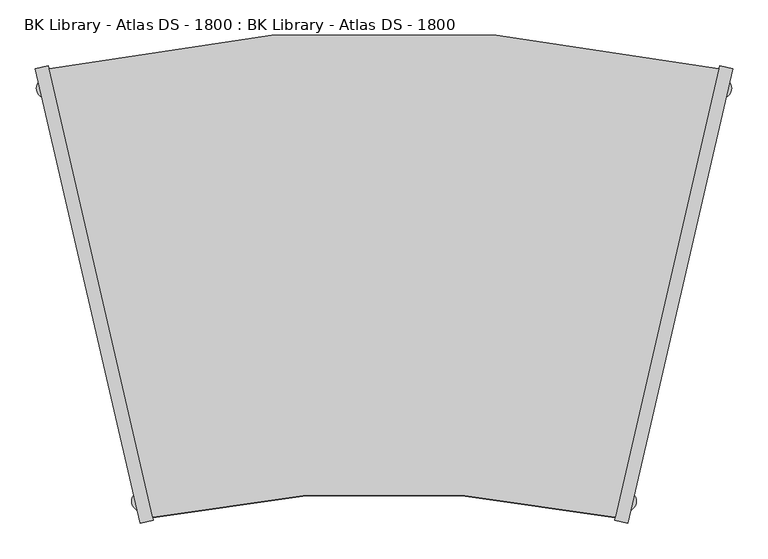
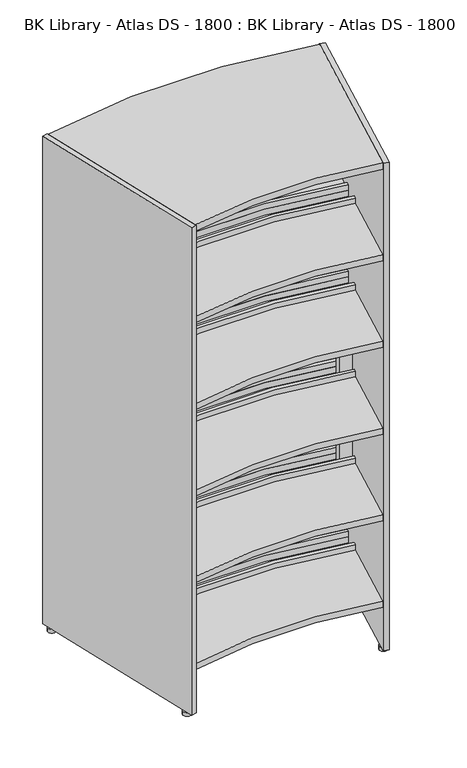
"""IFC4 building model written with IfcOpenShell, lengths in millimetres: furniture geometry, BK Library - Atlas DS - 1800 : BK Library - Atlas DS - 1800."""

from ifc_helpers import new_model, si_unit, point, frame, frame_2d, origin, origin_with_axes, place, context, project, spatial, polyline, circle_curve, trimmed, segment, composite_curve, outline, extrude, source, transform, mapped, element, save
from ifc_brep_helpers import plane_surface, cylinder_surface, revolved_surface, advanced_brep


def bk_library_atlas_ds_1800_bk_library_atlas_ds_1800_9343d491(model_context):
    return source(origin(), model_context, "Body", "SolidModel", [
        advanced_brep(
        [(-403.1922937, 9.7442892, 1106.1999998), (-398.6983746, -9.7442892, 1106.1999998), (398.6983746, -9.7442892, 1106.1999998), (403.1922937, 9.7442892, 1106.1999998), (-403.1922937, 9.7442892, 391.1999998), (403.1922937, 9.7442892, 391.1999998), (398.6983746, -9.7442892, 391.1999998), (-398.6983746, -9.7442892, 391.1999998), (359.7000463, -1.6061954, 1066.1999998), (359.7000463, -1.6061954, 768.6999998), (-359.7212176, -1.6103769, 768.6999998), (-359.7212176, -1.6103769, 1066.1999998), (-359.7212176, -1.6103769, 728.6999998), (359.7000463, -1.6061954, 728.6999998), (359.7000463, -1.6061954, 431.1999998), (-359.7212176, -1.6103769, 431.1999998), (359.7000463, 18.8192746, 768.6999998), (359.7000463, 18.8192746, 1066.1999998), (-359.7212176, 18.8151191, 1066.1999998), (-359.7212176, 18.8151191, 768.6999998), (359.7000463, 18.8192746, 728.6999998), (-359.7212176, 18.8151191, 728.6999998), (-359.7212176, 18.8151191, 431.1999998), (359.7000463, 18.8192746, 431.1999998)],
        [
            (0, 1),
            (1, 2, circle_curve(frame((0.0, -1822.824997, 1106.1999998), z_axis=(0.0, 0.0, -1.0), x_axis=(1.0, 0.0, 0.0)), 1856.4002927)),
            (2, 3),
            (3, 0, circle_curve(frame((0.0, -1813.8149651, 1106.1999998), z_axis=(0.0, 0.0, 1.0), x_axis=(1.0, 0.0, 0.0)), 1867.6007014)),
            (4, 5, circle_curve(frame((0.0, -1813.8149651, 391.1999998), z_axis=(0.0, 0.0, -1.0), x_axis=(1.0, 0.0, 0.0)), 1867.6007014)),
            (5, 6),
            (6, 7, circle_curve(frame((0.0, -1822.824997, 391.1999998), z_axis=(0.0, 0.0, 1.0), x_axis=(1.0, 0.0, 0.0)), 1856.4002927)),
            (7, 4),
            (0, 4),
            (7, 1),
            (2, 6),
            (5, 3),
            (8, 9),
            (9, 10, circle_curve(frame((0.0, -1822.824997, 768.6999998), z_axis=(0.0, 0.0, 1.0), x_axis=(1.0, 0.0, 0.0)), 1856.4002927)),
            (10, 11),
            (11, 8, circle_curve(frame((0.0, -1822.824997, 1066.1999998), z_axis=(0.0, 0.0, -1.0), x_axis=(1.0, 0.0, 0.0)), 1856.4002927)),
            (12, 13, circle_curve(frame((0.0, -1822.824997, 728.6999998), z_axis=(0.0, 0.0, -1.0), x_axis=(1.0, 0.0, 0.0)), 1856.4002927)),
            (13, 14),
            (14, 15, circle_curve(frame((0.0, -1822.824997, 431.1999998), z_axis=(0.0, 0.0, 1.0), x_axis=(1.0, 0.0, 0.0)), 1856.4002927)),
            (15, 12),
            (16, 17),
            (17, 18, circle_curve(frame((0.0, -1813.8149651, 1066.1999998), z_axis=(0.0, 0.0, 1.0), x_axis=(1.0, 0.0, 0.0)), 1867.6007014)),
            (18, 19),
            (19, 16, circle_curve(frame((0.0, -1813.8149651, 768.6999998), z_axis=(0.0, 0.0, -1.0), x_axis=(1.0, 0.0, 0.0)), 1867.6007014)),
            (20, 21, circle_curve(frame((0.0, -1813.8149651, 728.6999998), z_axis=(0.0, 0.0, 1.0), x_axis=(1.0, 0.0, 0.0)), 1867.6007014)),
            (21, 22),
            (22, 23, circle_curve(frame((0.0, -1813.8149651, 431.1999998), z_axis=(0.0, 0.0, -1.0), x_axis=(1.0, 0.0, 0.0)), 1867.6007014)),
            (23, 20),
            (16, 9),
            (8, 17),
            (11, 18),
            (10, 19),
            (20, 13),
            (12, 21),
            (15, 22),
            (14, 23),
        ],
        [
            plane_surface(frame((-326.7956683, -321.5615447, 1106.1999998), z_axis=(0.0, 0.0, 1.0), x_axis=(0.224695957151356, -0.9744289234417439, 0.0))),
            plane_surface(frame((-326.7956683, -321.5615447, 391.1999998), z_axis=(0.0, 0.0, -1.0), x_axis=(-0.224695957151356, 0.9744289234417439, 0.0))),
            plane_surface(frame((-403.1922937, 9.7442892, 1106.1999998), z_axis=(-0.9744289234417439, -0.224695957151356, 0.0), x_axis=(0.0, 0.0, -1.0))),
            plane_surface(frame((398.6983746, -9.7442892, 1106.1999998), z_axis=(0.974428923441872, -0.22469595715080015, 0.0), x_axis=(0.0, 0.0, -1.0))),
            revolved_surface(polyline([(1856.4002927, -1822.824997, 391.1999998), (1856.4002927, -1822.824997, 1106.1999998)]), (0.0, -1822.824997, 391.1999998), (0.0, 0.0, -1.0)),
            cylinder_surface(frame((0.0, -1813.8149651, 391.1999998), z_axis=(0.0, 0.0, 1.0), x_axis=(1.0, 0.0, 0.0)), 1867.6007014),
            plane_surface(frame((359.7000463, -114.4923923, 768.6999998), z_axis=(-1.0, 0.0, 0.0), x_axis=(0.0, 1.0, 0.0))),
            plane_surface(frame((359.7000463, -114.4923923, 1066.1999998), z_axis=(0.0, 0.0, -1.0), x_axis=(0.0, 1.0, 0.0))),
            plane_surface(frame((-359.7212176, -114.4923923, 1066.1999998), z_axis=(1.0, 0.0, 0.0), x_axis=(0.0, 1.0, 0.0))),
            plane_surface(frame((-359.7212176, -114.4923923, 768.6999998), z_axis=(0.0, 0.0, 1.0), x_axis=(0.0, 1.0, 0.0))),
            plane_surface(frame((359.7000463, -114.4923923, 728.6999998), z_axis=(0.0, 0.0, -1.0), x_axis=(0.0, 1.0, 0.0))),
            plane_surface(frame((-359.7212176, -114.4923923, 728.6999998), z_axis=(1.0, 0.0, 0.0), x_axis=(0.0, 1.0, 0.0))),
            plane_surface(frame((-359.7212176, -114.4923923, 431.1999998), z_axis=(0.0, 0.0, 1.0), x_axis=(0.0, 1.0, 0.0))),
            plane_surface(frame((359.7000463, -114.4923923, 431.1999998), z_axis=(-1.0, 0.0, 0.0), x_axis=(0.0, 1.0, 0.0))),
        ],
        [
            (0, [[1, 2, 3, 4]]),
            (1, [[5, 6, 7, 8]]),
            (2, [[-1, 9, -8, 10]]),
            (3, [[-3, 11, -6, 12]]),
            (4, [[-2, -10, -7, -11], [13, 14, 15, 16], [17, 18, 19, 20]]),
            (5, [[-4, -12, -5, -9], [21, 22, 23, 24], [25, 26, 27, 28]]),
            (6, [[29, -13, 30, -21]]),
            (7, [[-30, -16, 31, -22]]),
            (8, [[-31, -15, 32, -23]]),
            (9, [[-29, -24, -32, -14]]),
            (10, [[33, -17, 34, -25]]),
            (11, [[-34, -20, 35, -26]]),
            (12, [[-35, -19, 36, -27]]),
            (13, [[-33, -28, -36, -18]]),
        ],
    ),
        extrude(outline(composite_curve([segment(trimmed(circle_curve(frame_2d((0.0, -1840.4430404)), 1557.6392973), [point((327.6944521, -317.663829))], [point((-327.6944521, -317.663829))], True, "CARTESIAN"), True, "CONTINUOUS"), segment(polyline([(-327.6944521, -317.663829), (-394.2058088, -29.2269986)]), True, "CONTINUOUS"), segment(trimmed(circle_curve(frame_2d((0.0, -1785.1487517)), 1799.627579), [point((-394.2058088, -29.2269986))], [point((394.2058088, -29.2269986))], False, "CARTESIAN"), True, "CONTINUOUS"), segment(polyline([(394.2058088, -29.2269986), (327.6944521, -317.663829)]), True, "CONTINUOUS")], self_intersect=False)), frame((0.0, 0.0, 171.6999998), z_axis=(0.0, 0.0, 1.0), x_axis=(1.0, 0.0, 0.0)), (0.0, 0.0, 1.0), 22.0),
        extrude(outline(composite_curve([segment(trimmed(circle_curve(frame_2d((0.0, -1777.8812307)), 2148.52767), [point((-474.1962162, 317.663829))], [point((474.1962162, 317.663829))], False, "CARTESIAN"), True, "CONTINUOUS"), segment(polyline([(474.1962162, 317.663829), (407.6853202, 29.2289965)]), True, "CONTINUOUS"), segment(trimmed(circle_curve(frame_2d((0.0, -1798.2835703)), 1872.4341116), [point((407.6853202, 29.2289965))], [point((-407.6853202, 29.2289965))], True, "CARTESIAN"), True, "CONTINUOUS"), segment(polyline([(-407.6853202, 29.2289965), (-474.1962162, 317.663829)]), True, "CONTINUOUS")], self_intersect=False)), frame((0.0, 0.0, 171.6999998), z_axis=(0.0, 0.0, 1.0), x_axis=(1.0, 0.0, 0.0)), (0.0, 0.0, 1.0), 22.0),
        extrude(outline(composite_curve([segment(trimmed(circle_curve(frame_2d((0.0, -1840.4430404)), 1557.6392973), [point((327.6944521, -317.663829))], [point((-327.6944521, -317.663829))], True, "CARTESIAN"), True, "CONTINUOUS"), segment(polyline([(-327.6944521, -317.663829), (-394.2058088, -29.2269986)]), True, "CONTINUOUS"), segment(trimmed(circle_curve(frame_2d((0.0, -1785.1487517)), 1799.627579), [point((-394.2058088, -29.2269986))], [point((394.2058088, -29.2269986))], False, "CARTESIAN"), True, "CONTINUOUS"), segment(polyline([(394.2058088, -29.2269986), (327.6944521, -317.663829)]), True, "CONTINUOUS")], self_intersect=False)), frame((0.0, 0.0, 491.6999998), z_axis=(0.0, 0.0, 1.0), x_axis=(1.0, 0.0, 0.0)), (0.0, 0.0, 1.0), 22.0),
        extrude(outline(composite_curve([segment(trimmed(circle_curve(frame_2d((0.0, -1777.8812307)), 2148.52767), [point((-474.1962162, 317.663829))], [point((474.1962162, 317.663829))], False, "CARTESIAN"), True, "CONTINUOUS"), segment(polyline([(474.1962162, 317.663829), (407.6853202, 29.2289965)]), True, "CONTINUOUS"), segment(trimmed(circle_curve(frame_2d((0.0, -1798.2835703)), 1872.4341116), [point((407.6853202, 29.2289965))], [point((-407.6853202, 29.2289965))], True, "CARTESIAN"), True, "CONTINUOUS"), segment(polyline([(-407.6853202, 29.2289965), (-474.1962162, 317.663829)]), True, "CONTINUOUS")], self_intersect=False)), frame((0.0, 0.0, 491.6999998), z_axis=(0.0, 0.0, 1.0), x_axis=(1.0, 0.0, 0.0)), (0.0, 0.0, 1.0), 22.0),
        extrude(outline(composite_curve([segment(trimmed(circle_curve(frame_2d((0.0, -1840.4430404)), 1557.6392973), [point((327.6944521, -317.663829))], [point((-327.6944521, -317.663829))], True, "CARTESIAN"), True, "CONTINUOUS"), segment(polyline([(-327.6944521, -317.663829), (-394.2058088, -29.2269986)]), True, "CONTINUOUS"), segment(trimmed(circle_curve(frame_2d((0.0, -1785.1487517)), 1799.627579), [point((-394.2058088, -29.2269986))], [point((394.2058088, -29.2269986))], False, "CARTESIAN"), True, "CONTINUOUS"), segment(polyline([(394.2058088, -29.2269986), (327.6944521, -317.663829)]), True, "CONTINUOUS")], self_intersect=False)), frame((0.0, 0.0, 811.6999998), z_axis=(0.0, 0.0, 1.0), x_axis=(1.0, 0.0, 0.0)), (0.0, 0.0, 1.0), 22.0),
        extrude(outline(composite_curve([segment(trimmed(circle_curve(frame_2d((0.0, -1777.8812307)), 2148.52767), [point((-474.1962162, 317.663829))], [point((474.1962162, 317.663829))], False, "CARTESIAN"), True, "CONTINUOUS"), segment(polyline([(474.1962162, 317.663829), (407.6853202, 29.2289965)]), True, "CONTINUOUS"), segment(trimmed(circle_curve(frame_2d((0.0, -1798.2835703)), 1872.4341116), [point((407.6853202, 29.2289965))], [point((-407.6853202, 29.2289965))], True, "CARTESIAN"), True, "CONTINUOUS"), segment(polyline([(-407.6853202, 29.2289965), (-474.1962162, 317.663829)]), True, "CONTINUOUS")], self_intersect=False)), frame((0.0, 0.0, 811.6999998), z_axis=(0.0, 0.0, 1.0), x_axis=(1.0, 0.0, 0.0)), (0.0, 0.0, 1.0), 22.0),
        extrude(outline(composite_curve([segment(trimmed(circle_curve(frame_2d((0.0, -1840.4430404)), 1557.6392973), [point((327.6944521, -317.663829))], [point((-327.6944521, -317.663829))], True, "CARTESIAN"), True, "CONTINUOUS"), segment(polyline([(-327.6944521, -317.663829), (-394.2058088, -29.2269986)]), True, "CONTINUOUS"), segment(trimmed(circle_curve(frame_2d((0.0, -1785.1487517)), 1799.627579), [point((-394.2058088, -29.2269986))], [point((394.2058088, -29.2269986))], False, "CARTESIAN"), True, "CONTINUOUS"), segment(polyline([(394.2058088, -29.2269986), (327.6944521, -317.663829)]), True, "CONTINUOUS")], self_intersect=False)), frame((0.0, 0.0, 1131.6999998), z_axis=(0.0, 0.0, 1.0), x_axis=(1.0, 0.0, 0.0)), (0.0, 0.0, 1.0), 22.0),
        extrude(outline(composite_curve([segment(trimmed(circle_curve(frame_2d((0.0, -1777.8812307)), 2148.52767), [point((-474.1962162, 317.663829))], [point((474.1962162, 317.663829))], False, "CARTESIAN"), True, "CONTINUOUS"), segment(polyline([(474.1962162, 317.663829), (407.6853202, 29.2289965)]), True, "CONTINUOUS"), segment(trimmed(circle_curve(frame_2d((0.0, -1798.2835703)), 1872.4341116), [point((407.6853202, 29.2289965))], [point((-407.6853202, 29.2289965))], True, "CARTESIAN"), True, "CONTINUOUS"), segment(polyline([(-407.6853202, 29.2289965), (-474.1962162, 317.663829)]), True, "CONTINUOUS")], self_intersect=False)), frame((0.0, 0.0, 1131.6999998), z_axis=(0.0, 0.0, 1.0), x_axis=(1.0, 0.0, 0.0)), (0.0, 0.0, 1.0), 22.0),
        extrude(outline(composite_curve([segment(trimmed(circle_curve(frame_2d((0.0, -1840.4430404)), 1557.6392973), [point((327.6944521, -317.663829))], [point((-327.6944521, -317.663829))], True, "CARTESIAN"), True, "CONTINUOUS"), segment(polyline([(-327.6944521, -317.663829), (-394.2058088, -29.2269986)]), True, "CONTINUOUS"), segment(trimmed(circle_curve(frame_2d((0.0, -1785.1487517)), 1799.627579), [point((-394.2058088, -29.2269986))], [point((394.2058088, -29.2269986))], False, "CARTESIAN"), True, "CONTINUOUS"), segment(polyline([(394.2058088, -29.2269986), (327.6944521, -317.663829)]), True, "CONTINUOUS")], self_intersect=False)), frame((0.0, 0.0, 1451.6999998), z_axis=(0.0, 0.0, 1.0), x_axis=(1.0, 0.0, 0.0)), (0.0, 0.0, 1.0), 22.0),
        extrude(outline(composite_curve([segment(trimmed(circle_curve(frame_2d((0.0, -1777.8812307)), 2148.52767), [point((-474.1962162, 317.663829))], [point((474.1962162, 317.663829))], False, "CARTESIAN"), True, "CONTINUOUS"), segment(polyline([(474.1962162, 317.663829), (407.6853202, 29.2289965)]), True, "CONTINUOUS"), segment(trimmed(circle_curve(frame_2d((0.0, -1798.2835703)), 1872.4341116), [point((407.6853202, 29.2289965))], [point((-407.6853202, 29.2289965))], True, "CARTESIAN"), True, "CONTINUOUS"), segment(polyline([(-407.6853202, 29.2289965), (-474.1962162, 317.663829)]), True, "CONTINUOUS")], self_intersect=False)), frame((0.0, 0.0, 1451.6999998), z_axis=(0.0, 0.0, 1.0), x_axis=(1.0, 0.0, 0.0)), (0.0, 0.0, 1.0), 22.0),
        extrude(outline(composite_curve([segment(trimmed(circle_curve(frame_2d((0.0, -1785.1487517)), 1799.627579), [point((-394.2058088, -29.2269986))], [point((394.2058088, -29.2269986))], False, "CARTESIAN"), True, "CONTINUOUS"), segment(polyline([(394.2058088, -29.2269986), (391.2848087, -41.8943694)]), True, "CONTINUOUS"), segment(trimmed(circle_curve(frame_2d((0.0, -1790.5831955)), 1791.9309172), [point((391.2848087, -41.8943694))], [point((-391.2848087, -41.8943694))], True, "CARTESIAN"), True, "CONTINUOUS"), segment(polyline([(-391.2848087, -41.8943694), (-394.2058088, -29.2269986)]), True, "CONTINUOUS")], self_intersect=False)), frame((0.0, 0.0, 193.6999998), z_axis=(0.0, 0.0, 1.0), x_axis=(1.0, 0.0, 0.0)), (0.0, 0.0, 1.0), 20.0),
        extrude(outline(composite_curve([segment(trimmed(circle_curve(frame_2d((0.0, -1776.6858327)), 1864.3585062), [point((-410.605951, 41.8947656))], [point((410.605951, 41.8947656))], False, "CARTESIAN"), True, "CONTINUOUS"), segment(polyline([(410.605951, 41.8947656), (407.6853202, 29.2289965)]), True, "CONTINUOUS"), segment(trimmed(circle_curve(frame_2d((0.0, -1798.2835703)), 1872.4341116), [point((407.6853202, 29.2289965))], [point((-407.6853202, 29.2289965))], True, "CARTESIAN"), True, "CONTINUOUS"), segment(polyline([(-407.6853202, 29.2289965), (-410.605951, 41.8947656)]), True, "CONTINUOUS")], self_intersect=False)), frame((0.0, 0.0, 193.6999998), z_axis=(0.0, 0.0, 1.0), x_axis=(1.0, 0.0, 0.0)), (0.0, 0.0, 1.0), 20.0),
        extrude(outline(composite_curve([segment(trimmed(circle_curve(frame_2d((0.0, -1785.1487517)), 1799.627579), [point((-394.2058088, -29.2269986))], [point((394.2058088, -29.2269986))], False, "CARTESIAN"), True, "CONTINUOUS"), segment(polyline([(394.2058088, -29.2269986), (391.2848087, -41.8943694)]), True, "CONTINUOUS"), segment(trimmed(circle_curve(frame_2d((0.0, -1790.5831955)), 1791.9309172), [point((391.2848087, -41.8943694))], [point((-391.2848087, -41.8943694))], True, "CARTESIAN"), True, "CONTINUOUS"), segment(polyline([(-391.2848087, -41.8943694), (-394.2058088, -29.2269986)]), True, "CONTINUOUS")], self_intersect=False)), frame((0.0, 0.0, 513.6999998), z_axis=(0.0, 0.0, 1.0), x_axis=(1.0, 0.0, 0.0)), (0.0, 0.0, 1.0), 20.0),
        extrude(outline(composite_curve([segment(trimmed(circle_curve(frame_2d((0.0, -1776.6858327)), 1864.3585062), [point((-410.605951, 41.8947656))], [point((410.605951, 41.8947656))], False, "CARTESIAN"), True, "CONTINUOUS"), segment(polyline([(410.605951, 41.8947656), (407.6853202, 29.2289965)]), True, "CONTINUOUS"), segment(trimmed(circle_curve(frame_2d((0.0, -1798.2835703)), 1872.4341116), [point((407.6853202, 29.2289965))], [point((-407.6853202, 29.2289965))], True, "CARTESIAN"), True, "CONTINUOUS"), segment(polyline([(-407.6853202, 29.2289965), (-410.605951, 41.8947656)]), True, "CONTINUOUS")], self_intersect=False)), frame((0.0, 0.0, 513.6999998), z_axis=(0.0, 0.0, 1.0), x_axis=(1.0, 0.0, 0.0)), (0.0, 0.0, 1.0), 20.0),
        extrude(outline(composite_curve([segment(trimmed(circle_curve(frame_2d((0.0, -1785.1487517)), 1799.627579), [point((-394.2058088, -29.2269986))], [point((394.2058088, -29.2269986))], False, "CARTESIAN"), True, "CONTINUOUS"), segment(polyline([(394.2058088, -29.2269986), (391.2848087, -41.8943694)]), True, "CONTINUOUS"), segment(trimmed(circle_curve(frame_2d((0.0, -1790.5831955)), 1791.9309172), [point((391.2848087, -41.8943694))], [point((-391.2848087, -41.8943694))], True, "CARTESIAN"), True, "CONTINUOUS"), segment(polyline([(-391.2848087, -41.8943694), (-394.2058088, -29.2269986)]), True, "CONTINUOUS")], self_intersect=False)), frame((0.0, 0.0, 833.6999998), z_axis=(0.0, 0.0, 1.0), x_axis=(1.0, 0.0, 0.0)), (0.0, 0.0, 1.0), 20.0),
        extrude(outline(composite_curve([segment(trimmed(circle_curve(frame_2d((0.0, -1776.6858327)), 1864.3585062), [point((-410.605951, 41.8947656))], [point((410.605951, 41.8947656))], False, "CARTESIAN"), True, "CONTINUOUS"), segment(polyline([(410.605951, 41.8947656), (407.6853202, 29.2289965)]), True, "CONTINUOUS"), segment(trimmed(circle_curve(frame_2d((0.0, -1798.2835703)), 1872.4341116), [point((407.6853202, 29.2289965))], [point((-407.6853202, 29.2289965))], True, "CARTESIAN"), True, "CONTINUOUS"), segment(polyline([(-407.6853202, 29.2289965), (-410.605951, 41.8947656)]), True, "CONTINUOUS")], self_intersect=False)), frame((0.0, 0.0, 833.6999998), z_axis=(0.0, 0.0, 1.0), x_axis=(1.0, 0.0, 0.0)), (0.0, 0.0, 1.0), 20.0),
        extrude(outline(composite_curve([segment(trimmed(circle_curve(frame_2d((0.0, -1785.1487517)), 1799.627579), [point((-394.2058088, -29.2269986))], [point((394.2058088, -29.2269986))], False, "CARTESIAN"), True, "CONTINUOUS"), segment(polyline([(394.2058088, -29.2269986), (391.2848087, -41.8943694)]), True, "CONTINUOUS"), segment(trimmed(circle_curve(frame_2d((0.0, -1790.5831955)), 1791.9309172), [point((391.2848087, -41.8943694))], [point((-391.2848087, -41.8943694))], True, "CARTESIAN"), True, "CONTINUOUS"), segment(polyline([(-391.2848087, -41.8943694), (-394.2058088, -29.2269986)]), True, "CONTINUOUS")], self_intersect=False)), frame((0.0, 0.0, 1153.6999998), z_axis=(0.0, 0.0, 1.0), x_axis=(1.0, 0.0, 0.0)), (0.0, 0.0, 1.0), 20.0),
        extrude(outline(composite_curve([segment(trimmed(circle_curve(frame_2d((0.0, -1776.6858327)), 1864.3585062), [point((-410.605951, 41.8947656))], [point((410.605951, 41.8947656))], False, "CARTESIAN"), True, "CONTINUOUS"), segment(polyline([(410.605951, 41.8947656), (407.6853202, 29.2289965)]), True, "CONTINUOUS"), segment(trimmed(circle_curve(frame_2d((0.0, -1798.2835703)), 1872.4341116), [point((407.6853202, 29.2289965))], [point((-407.6853202, 29.2289965))], True, "CARTESIAN"), True, "CONTINUOUS"), segment(polyline([(-407.6853202, 29.2289965), (-410.605951, 41.8947656)]), True, "CONTINUOUS")], self_intersect=False)), frame((0.0, 0.0, 1153.6999998), z_axis=(0.0, 0.0, 1.0), x_axis=(1.0, 0.0, 0.0)), (0.0, 0.0, 1.0), 20.0),
        extrude(outline(composite_curve([segment(trimmed(circle_curve(frame_2d((0.0, -1785.1487517)), 1799.627579), [point((-394.2058088, -29.2269986))], [point((394.2058088, -29.2269986))], False, "CARTESIAN"), True, "CONTINUOUS"), segment(polyline([(394.2058088, -29.2269986), (391.2848087, -41.8943694)]), True, "CONTINUOUS"), segment(trimmed(circle_curve(frame_2d((0.0, -1790.5831955)), 1791.9309172), [point((391.2848087, -41.8943694))], [point((-391.2848087, -41.8943694))], True, "CARTESIAN"), True, "CONTINUOUS"), segment(polyline([(-391.2848087, -41.8943694), (-394.2058088, -29.2269986)]), True, "CONTINUOUS")], self_intersect=False)), frame((0.0, 0.0, 1473.6999998), z_axis=(0.0, 0.0, 1.0), x_axis=(1.0, 0.0, 0.0)), (0.0, 0.0, 1.0), 20.0),
        extrude(outline(composite_curve([segment(trimmed(circle_curve(frame_2d((0.0, -1776.6858327)), 1864.3585062), [point((-410.605951, 41.8947656))], [point((410.605951, 41.8947656))], False, "CARTESIAN"), True, "CONTINUOUS"), segment(polyline([(410.605951, 41.8947656), (407.6853202, 29.2289965)]), True, "CONTINUOUS"), segment(trimmed(circle_curve(frame_2d((0.0, -1798.2835703)), 1872.4341116), [point((407.6853202, 29.2289965))], [point((-407.6853202, 29.2289965))], True, "CARTESIAN"), True, "CONTINUOUS"), segment(polyline([(-407.6853202, 29.2289965), (-410.605951, 41.8947656)]), True, "CONTINUOUS")], self_intersect=False)), frame((0.0, 0.0, 1473.6999998), z_axis=(0.0, 0.0, 1.0), x_axis=(1.0, 0.0, 0.0)), (0.0, 0.0, 1.0), 20.0),
        extrude(outline(composite_curve([segment(trimmed(circle_curve(frame_2d((0.0, -1777.8812307)), 2148.52767), [point((-474.1962162, 317.663829))], [point((474.1962162, 317.663829))], False, "CARTESIAN"), True, "CONTINUOUS"), segment(polyline([(474.1962162, 317.663829), (327.6944521, -317.663829)]), True, "CONTINUOUS"), segment(trimmed(circle_curve(frame_2d((0.0, -1840.4430404)), 1557.6392973), [point((327.6944521, -317.663829))], [point((-327.6944521, -317.663829))], True, "CARTESIAN"), True, "CONTINUOUS"), segment(polyline([(-327.6944521, -317.663829), (-474.1962162, 317.663829)]), True, "CONTINUOUS")], self_intersect=False)), frame((0.0, 0.0, 1789.6999998), z_axis=(0.0, 0.0, 1.0), x_axis=(1.0, 0.0, 0.0)), (0.0, 0.0, 1.0), 24.0),
        extrude(outline(polyline([(-345.3098178, -325.8307679), (-493.6091495, 317.2923215), (-475.095, 321.5615447), (-326.7956683, -321.5615447), (-345.3098178, -325.8307679)])), frame((0.0, 0.0, 13.6999998), z_axis=(0.0, 0.0, 1.0), x_axis=(1.0, 0.0, 0.0)), (0.0, 0.0, 1.0), 1800.0),
        extrude(outline(polyline([(475.095, 321.5615447), (493.6091495, 317.2923215), (345.3098178, -325.8307679), (326.7956683, -321.5615447), (475.095, 321.5615447)])), frame((0.0, 0.0, 13.6999998), z_axis=(0.0, 0.0, 1.0), x_axis=(1.0, 0.0, 0.0)), (0.0, 0.0, 1.0), 1800.0),
        extrude(outline(composite_curve([segment(trimmed(circle_curve(frame_2d((477.608406, 290.1883722)), 14.4994573), [point((492.1078633, 290.1883722))], [point((463.1089486, 290.1883722))], False, "CARTESIAN"), True, "CONTINUOUS"), segment(trimmed(circle_curve(frame_2d((477.608406, 290.1883722)), 14.4994573), [point((463.1089486, 290.1883722))], [point((492.1078633, 290.1883722))], False, "CARTESIAN"), True, "CONTINUOUS")], self_intersect=False)), origin_with_axes(), (0.0, 0.0, 1.0), 13.6999998),
        extrude(outline(composite_curve([segment(trimmed(circle_curve(frame_2d((-477.608406, 290.1883722)), 14.4994573), [point((-492.1078633, 290.1883722))], [point((-463.1089486, 290.1883722))], False, "CARTESIAN"), True, "CONTINUOUS"), segment(trimmed(circle_curve(frame_2d((-477.608406, 290.1883722)), 14.4994573), [point((-463.1089486, 290.1883722))], [point((-492.1078633, 290.1883722))], False, "CARTESIAN"), True, "CONTINUOUS")], self_intersect=False)), origin_with_axes(), (0.0, 0.0, 1.0), 13.6999998),
        extrude(outline(composite_curve([segment(trimmed(circle_curve(frame_2d((342.7923392, -294.4590973)), 14.4994573), [point((357.2917965, -294.4590973))], [point((328.2928818, -294.4590973))], False, "CARTESIAN"), True, "CONTINUOUS"), segment(trimmed(circle_curve(frame_2d((342.7923392, -294.4590973)), 14.4994573), [point((328.2928818, -294.4590973))], [point((357.2917965, -294.4590973))], False, "CARTESIAN"), True, "CONTINUOUS")], self_intersect=False)), origin_with_axes(), (0.0, 0.0, 1.0), 13.6999998),
        extrude(outline(composite_curve([segment(trimmed(circle_curve(frame_2d((-342.7923392, -294.4590973)), 14.4994573), [point((-357.2917965, -294.4590973))], [point((-328.2928818, -294.4590973))], False, "CARTESIAN"), True, "CONTINUOUS"), segment(trimmed(circle_curve(frame_2d((-342.7923392, -294.4590973)), 14.4994573), [point((-328.2928818, -294.4590973))], [point((-357.2917965, -294.4590973))], False, "CARTESIAN"), True, "CONTINUOUS")], self_intersect=False)), origin_with_axes(), (0.0, 0.0, 1.0), 13.6999998),
    ])


if __name__ == "__main__":
    model = new_model("IFC4")
    model_context = context("Model", 3, world=origin())
    ifc_project = project(units=[si_unit("LENGTHUNIT", "METRE", prefix="MILLI")], contexts=[model_context])
    site = spatial("IfcSite", under=ifc_project)
    building = spatial("IfcBuilding", under=site)
    placement = place(None, origin())
    bk_library_atlas_ds_1800_bk_library_atlas_ds_1800_shape = bk_library_atlas_ds_1800_bk_library_atlas_ds_1800_9343d491(model_context)
    element("IfcFurniture", 1, ObjectType="BK Library - Atlas DS - 1800 : BK Library - Atlas DS - 1800", at=placement, inside=building, context=model_context, shape_type="MappedRepresentation", body=[
        mapped(bk_library_atlas_ds_1800_bk_library_atlas_ds_1800_shape, transform((0.0, 0.0, 0.0), x_axis=(1.0, 0.0, 0.0), y_axis=(0.0, 1.0, 0.0), z_axis=(0.0, 0.0, 1.0))),
    ])
    save(model, "model.ifc")
